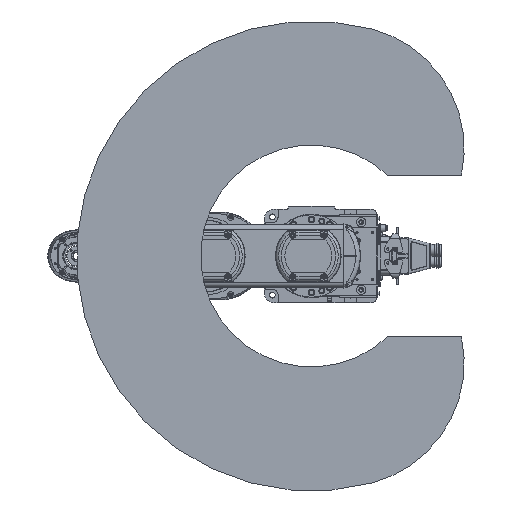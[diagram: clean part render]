
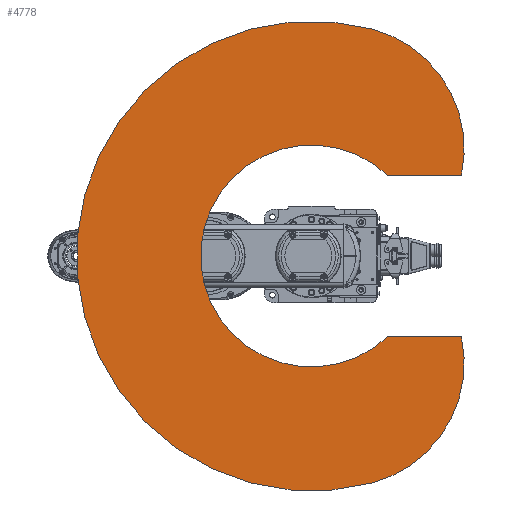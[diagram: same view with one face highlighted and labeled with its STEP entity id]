
A CAD part, front view. The second image highlights one B-rep face of the part: STEP entity #4778.
In plain terms, the highlighted planar face has unit normal (0, -1, 0).
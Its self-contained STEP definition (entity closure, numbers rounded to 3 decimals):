
#4778 = ADVANCED_FACE( '', ( #11695 ), #11696, .F. );
#11695 = FACE_OUTER_BOUND( '', #21267, .T. );
#11696 = PLANE( '', #21268 );
#21267 = EDGE_LOOP( '', ( #35701, #35702, #35703, #35704, #35705, #35706 ) );
#21268 = AXIS2_PLACEMENT_3D( '', #35707, #35708, #35709 );
#35701 = ORIENTED_EDGE( '', *, *, #54936, .T. );
#35702 = ORIENTED_EDGE( '', *, *, #54937, .F. );
#35703 = ORIENTED_EDGE( '', *, *, #54938, .F. );
#35704 = ORIENTED_EDGE( '', *, *, #54939, .F. );
#35705 = ORIENTED_EDGE( '', *, *, #54940, .T. );
#35706 = ORIENTED_EDGE( '', *, *, #54463, .F. );
#35707 = CARTESIAN_POINT( '', ( 102.614, 0., 27.495 ) );
#35708 = DIRECTION( '', ( 0., 1., 0. ) );
#35709 = DIRECTION( '', ( 0., 0., 1. ) );
#54463 = EDGE_CURVE( '', #65722, #65724, #65725, .F. );
#54936 = EDGE_CURVE( '', #65722, #66429, #66430, .T. );
#54937 = EDGE_CURVE( '', #66431, #66429, #66432, .T. );
#54938 = EDGE_CURVE( '', #66433, #66431, #66434, .T. );
#54939 = EDGE_CURVE( '', #66435, #66433, #66436, .T. );
#54940 = EDGE_CURVE( '', #66435, #65724, #66437, .T. );
#65722 = VERTEX_POINT( '', #82605 );
#65724 = VERTEX_POINT( '', #82608 );
#65725 = CIRCLE( '', #82609, 212.47 );
#66429 = VERTEX_POINT( '', #84015 );
#66430 = LINE( '', #84016, #84017 );
#66431 = VERTEX_POINT( '', #84018 );
#66432 = CIRCLE( '', #84019, 237.533 );
#66433 = VERTEX_POINT( '', #84020 );
#66434 = CIRCLE( '', #84021, 450. );
#66435 = VERTEX_POINT( '', #84022 );
#66436 = CIRCLE( '', #84023, 237.533 );
#66437 = LINE( '', #84024, #84025 );
#82605 = CARTESIAN_POINT( '', ( -155., 0., 145.322 ) );
#82608 = CARTESIAN_POINT( '', ( 155., 0., 145.322 ) );
#82609 = AXIS2_PLACEMENT_3D( '', #98982, #98983, #98984 );
#84015 = CARTESIAN_POINT( '', ( -155., 0., 287.152 ) );
#84016 = CARTESIAN_POINT( '', ( -155., 0., 0. ) );
#84017 = VECTOR( '', #99457, 1000. );
#84018 = CARTESIAN_POINT( '', ( -434.667, 0., 116.469 ) );
#84019 = AXIS2_PLACEMENT_3D( '', #99458, #99459, #99460 );
#84020 = CARTESIAN_POINT( '', ( 434.667, 0., 116.469 ) );
#84021 = AXIS2_PLACEMENT_3D( '', #99461, #99462, #99463 );
#84022 = CARTESIAN_POINT( '', ( 155., 0., 287.152 ) );
#84023 = AXIS2_PLACEMENT_3D( '', #99464, #99465, #99466 );
#84024 = CARTESIAN_POINT( '', ( 155., 0., 305. ) );
#84025 = VECTOR( '', #99467, 1000. );
#98982 = CARTESIAN_POINT( '', ( 0., 0., 0. ) );
#98983 = DIRECTION( '', ( 0., 1., 0. ) );
#98984 = DIRECTION( '', ( 0., 0., 1. ) );
#99457 = DIRECTION( '', ( 0., 0., 1. ) );
#99458 = CARTESIAN_POINT( '', ( -205.228, 0., 54.991 ) );
#99459 = DIRECTION( '', ( 0., 1., 0. ) );
#99460 = DIRECTION( '', ( 1., 0., 0. ) );
#99461 = CARTESIAN_POINT( '', ( 0., 0., 0. ) );
#99462 = DIRECTION( '', ( 0., 1., 0. ) );
#99463 = DIRECTION( '', ( 1., 0., 0. ) );
#99464 = CARTESIAN_POINT( '', ( 205.228, 0., 54.991 ) );
#99465 = DIRECTION( '', ( 0., 1., 0. ) );
#99466 = DIRECTION( '', ( 1., 0., 0. ) );
#99467 = DIRECTION( '', ( 0., 0., -1. ) );
